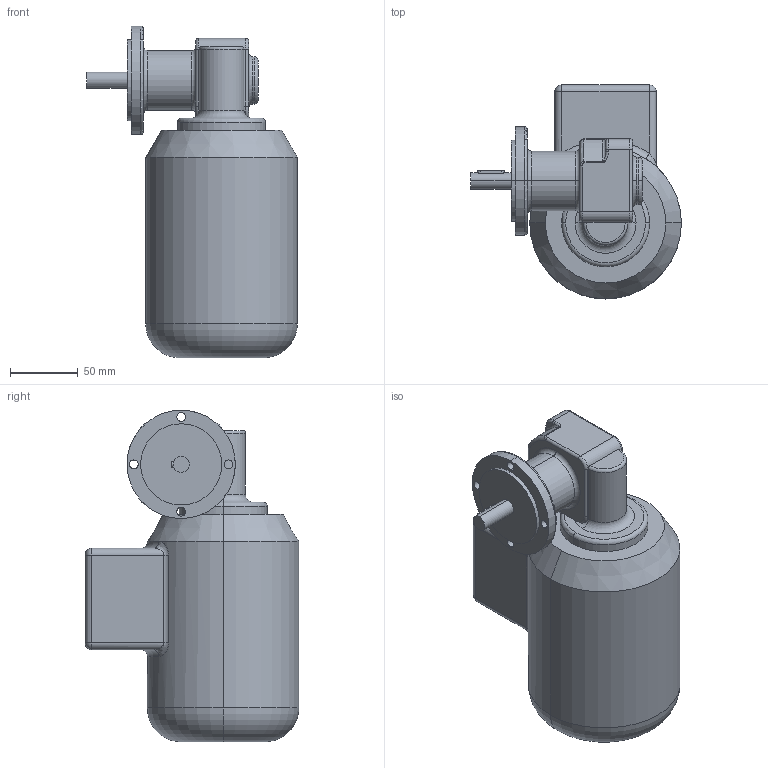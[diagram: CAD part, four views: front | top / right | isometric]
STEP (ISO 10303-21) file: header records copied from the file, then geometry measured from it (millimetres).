
FILE_DESCRIPTION (( 'STEP AP203' ), '1' );
FILE_NAME ('SN5FL-90,120W-A.STEP', '2010-04-23T09:36:53', ( ' ' ), ( ' ' ), 'SwSTEP 2.0', 'SolidWorks 2010', '' );
FILE_SCHEMA (( 'CONFIG_CONTROL_DESIGN' ));
Length unit declared in the file: millimetre
Products named in the file (3): SN5FL; BG56of; SN5FL-90,120W-A
Assembly tree (2 placements, depth 2):
  SN5FL-90,120W-A
    SN5FL
    BG56of
Bounding box: 155.7 x 158 x 245 mm (x, y, z)
Volume: 2172353.2 mm3; surface area: 125266.7 mm2
Topology: 2 solids, 2 shells, 140 faces, 325 edges, 184 vertices
Faces by surface type: cylinder 60, torus 35, plane 27, bspline 12, sphere 4, cone 2
Entity records: 8599 total; most frequent: CARTESIAN_POINT 5148, DIRECTION 712, ORIENTED_EDGE 636, EDGE_CURVE 318, AXIS2_PLACEMENT_3D 306, VERTEX_POINT 184, CIRCLE 173, EDGE_LOOP 150
